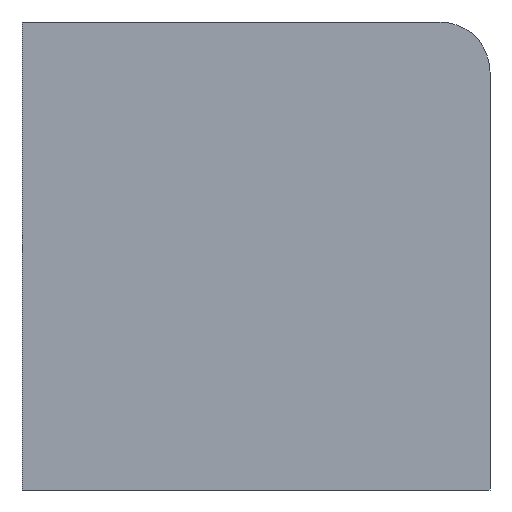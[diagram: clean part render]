
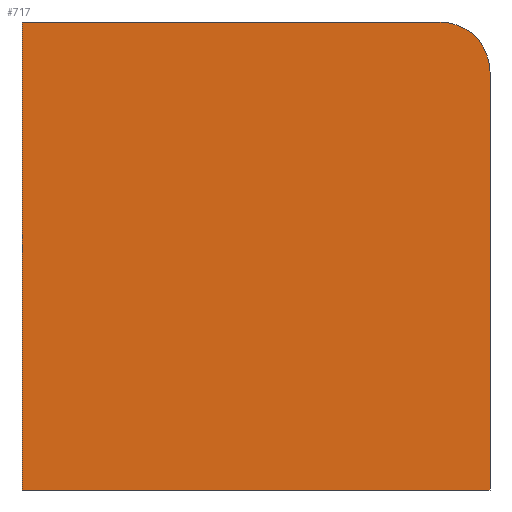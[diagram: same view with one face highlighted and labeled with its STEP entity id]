
A CAD part, front view. The second image highlights one B-rep face of the part: STEP entity #717.
In plain terms, the highlighted planar face has unit normal (0, -1, 0).
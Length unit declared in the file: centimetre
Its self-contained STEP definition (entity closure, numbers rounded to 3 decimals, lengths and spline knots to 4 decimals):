
#49 = VECTOR ( 'NONE', #950, 100. ) ;
#114 = CARTESIAN_POINT ( 'NONE',  ( 893.1015, 0., 893.1015 ) ) ;
#127 = CARTESIAN_POINT ( 'NONE',  ( 1000., 0., 1000. ) ) ;
#182 = CIRCLE ( 'NONE', #612, 106.8985 ) ;
#201 = CARTESIAN_POINT ( 'NONE',  ( 0., 0., 0. ) ) ;
#259 = VECTOR ( 'NONE', #1670, 100. ) ;
#265 = ORIENTED_EDGE ( 'NONE', *, *, #574, .T. ) ;
#281 = LINE ( 'NONE', #1064, #49 ) ;
#405 = EDGE_CURVE ( 'NONE', #1641, #1011, #955, .T. ) ;
#504 = VECTOR ( 'NONE', #1432, 100. ) ;
#571 = EDGE_CURVE ( 'NONE', #1641, #907, #616, .T. ) ;
#574 = EDGE_CURVE ( 'NONE', #847, #907, #182, .T. ) ;
#591 = DIRECTION ( 'NONE',  ( 0., 0., 1. ) ) ;
#612 = AXIS2_PLACEMENT_3D ( 'NONE', #114, #1665, #1014 ) ;
#616 = LINE ( 'NONE', #1136, #504 ) ;
#717 = ADVANCED_FACE ( 'NONE', ( #983 ), #1669, .F. ) ;
#796 = CARTESIAN_POINT ( 'NONE',  ( 0., 0., 1000. ) ) ;
#847 = VERTEX_POINT ( 'NONE', #1532 ) ;
#858 = CARTESIAN_POINT ( 'NONE',  ( 0., 0., 1000. ) ) ;
#899 = CARTESIAN_POINT ( 'NONE',  ( 893.1015, 0., 1000. ) ) ;
#900 = LINE ( 'NONE', #127, #259 ) ;
#907 = VERTEX_POINT ( 'NONE', #899 ) ;
#950 = DIRECTION ( 'NONE',  ( 1., 0., 0. ) ) ;
#955 = LINE ( 'NONE', #1072, #1184 ) ;
#965 = AXIS2_PLACEMENT_3D ( 'NONE', #858, #1248, #591 ) ;
#983 = FACE_OUTER_BOUND ( 'NONE', #1459, .T. ) ;
#1003 = ORIENTED_EDGE ( 'NONE', *, *, #1487, .F. ) ;
#1011 = VERTEX_POINT ( 'NONE', #201 ) ;
#1014 = DIRECTION ( 'NONE',  ( 0., 0., 1. ) ) ;
#1064 = CARTESIAN_POINT ( 'NONE',  ( 0., 0., 0. ) ) ;
#1072 = CARTESIAN_POINT ( 'NONE',  ( 0., 0., 1000. ) ) ;
#1097 = CARTESIAN_POINT ( 'NONE',  ( 1000., 0., 0. ) ) ;
#1136 = CARTESIAN_POINT ( 'NONE',  ( 0., 0., 1000. ) ) ;
#1184 = VECTOR ( 'NONE', #1628, 100. ) ;
#1220 = ORIENTED_EDGE ( 'NONE', *, *, #405, .T. ) ;
#1248 = DIRECTION ( 'NONE',  ( 0., 1., 0. ) ) ;
#1286 = ORIENTED_EDGE ( 'NONE', *, *, #571, .F. ) ;
#1351 = ORIENTED_EDGE ( 'NONE', *, *, #1666, .T. ) ;
#1355 = VERTEX_POINT ( 'NONE', #1097 ) ;
#1432 = DIRECTION ( 'NONE',  ( 1., 0., 0. ) ) ;
#1459 = EDGE_LOOP ( 'NONE', ( #1003, #265, #1286, #1220, #1351 ) ) ;
#1487 = EDGE_CURVE ( 'NONE', #847, #1355, #900, .T. ) ;
#1532 = CARTESIAN_POINT ( 'NONE',  ( 1000., 0., 893.1015 ) ) ;
#1628 = DIRECTION ( 'NONE',  ( 0., 0., -1. ) ) ;
#1641 = VERTEX_POINT ( 'NONE', #796 ) ;
#1665 = DIRECTION ( 'NONE',  ( 0., -1., 0. ) ) ;
#1666 = EDGE_CURVE ( 'NONE', #1011, #1355, #281, .T. ) ;
#1669 = PLANE ( 'NONE',  #965 ) ;
#1670 = DIRECTION ( 'NONE',  ( 0., 0., -1. ) ) ;
